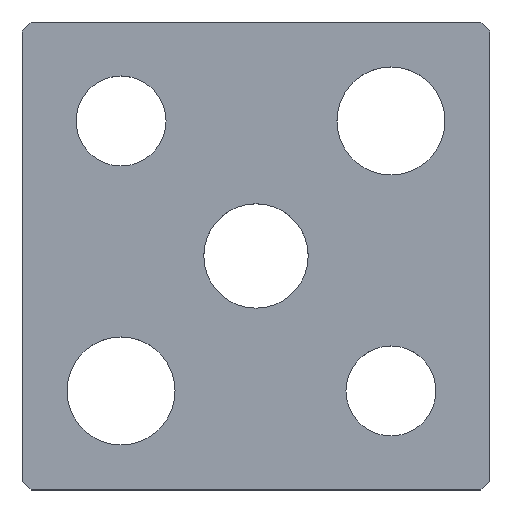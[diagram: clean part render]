
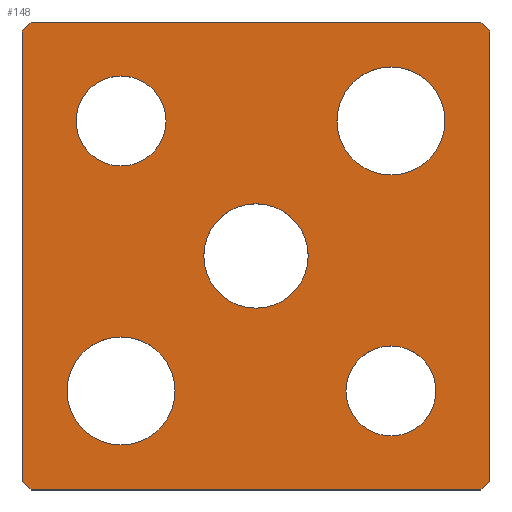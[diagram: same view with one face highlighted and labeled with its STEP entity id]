
A CAD part, top view. The second image highlights one B-rep face of the part: STEP entity #148.
In plain terms, the highlighted planar face has unit normal (0, 0, 1).
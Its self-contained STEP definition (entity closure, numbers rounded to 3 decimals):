
#117=CIRCLE('',#503,5.8);
#118=CIRCLE('',#504,5.8);
#119=CIRCLE('',#505,5.);
#120=CIRCLE('',#506,5.);
#121=CIRCLE('',#507,6.);
#122=CIRCLE('',#508,6.);
#123=CIRCLE('',#509,6.);
#124=CIRCLE('',#510,6.);
#125=CIRCLE('',#511,5.);
#126=CIRCLE('',#512,5.);
#133=FACE_BOUND('',#201,.T.);
#134=FACE_BOUND('',#202,.T.);
#135=FACE_BOUND('',#203,.T.);
#136=FACE_BOUND('',#204,.T.);
#137=FACE_BOUND('',#205,.T.);
#138=FACE_BOUND('',#206,.T.);
#148=ADVANCED_FACE('',(#133,#134,#135,#136,#137,#138),#168,.T.);
#168=PLANE('',#513);
#201=EDGE_LOOP('',(#267,#268,#269,#270,#271,#272,#273,#274));
#202=EDGE_LOOP('',(#275,#276));
#203=EDGE_LOOP('',(#277,#278));
#204=EDGE_LOOP('',(#279,#280));
#205=EDGE_LOOP('',(#281,#282));
#206=EDGE_LOOP('',(#283,#284));
#267=ORIENTED_EDGE('',*,*,#362,.T.);
#268=ORIENTED_EDGE('',*,*,#366,.T.);
#269=ORIENTED_EDGE('',*,*,#369,.T.);
#270=ORIENTED_EDGE('',*,*,#372,.T.);
#271=ORIENTED_EDGE('',*,*,#375,.T.);
#272=ORIENTED_EDGE('',*,*,#378,.T.);
#273=ORIENTED_EDGE('',*,*,#381,.T.);
#274=ORIENTED_EDGE('',*,*,#384,.T.);
#275=ORIENTED_EDGE('',*,*,#395,.T.);
#276=ORIENTED_EDGE('',*,*,#396,.T.);
#277=ORIENTED_EDGE('',*,*,#397,.T.);
#278=ORIENTED_EDGE('',*,*,#398,.T.);
#279=ORIENTED_EDGE('',*,*,#399,.T.);
#280=ORIENTED_EDGE('',*,*,#400,.T.);
#281=ORIENTED_EDGE('',*,*,#401,.T.);
#282=ORIENTED_EDGE('',*,*,#402,.T.);
#283=ORIENTED_EDGE('',*,*,#403,.T.);
#284=ORIENTED_EDGE('',*,*,#404,.T.);
#326=VERTEX_POINT('',#643);
#327=VERTEX_POINT('',#645);
#330=VERTEX_POINT('',#652);
#332=VERTEX_POINT('',#658);
#334=VERTEX_POINT('',#664);
#336=VERTEX_POINT('',#670);
#338=VERTEX_POINT('',#676);
#340=VERTEX_POINT('',#682);
#351=VERTEX_POINT('',#711);
#352=VERTEX_POINT('',#712);
#353=VERTEX_POINT('',#715);
#354=VERTEX_POINT('',#716);
#355=VERTEX_POINT('',#719);
#356=VERTEX_POINT('',#720);
#357=VERTEX_POINT('',#723);
#358=VERTEX_POINT('',#724);
#359=VERTEX_POINT('',#727);
#360=VERTEX_POINT('',#728);
#362=EDGE_CURVE('',#327,#326,#416,.T.);
#366=EDGE_CURVE('',#326,#330,#420,.T.);
#369=EDGE_CURVE('',#330,#332,#423,.T.);
#372=EDGE_CURVE('',#332,#334,#426,.T.);
#375=EDGE_CURVE('',#334,#336,#429,.T.);
#378=EDGE_CURVE('',#336,#338,#432,.T.);
#381=EDGE_CURVE('',#338,#340,#435,.T.);
#384=EDGE_CURVE('',#340,#327,#438,.T.);
#395=EDGE_CURVE('',#351,#352,#117,.T.);
#396=EDGE_CURVE('',#352,#351,#118,.T.);
#397=EDGE_CURVE('',#353,#354,#119,.T.);
#398=EDGE_CURVE('',#354,#353,#120,.T.);
#399=EDGE_CURVE('',#355,#356,#121,.T.);
#400=EDGE_CURVE('',#356,#355,#122,.T.);
#401=EDGE_CURVE('',#357,#358,#123,.T.);
#402=EDGE_CURVE('',#358,#357,#124,.T.);
#403=EDGE_CURVE('',#359,#360,#125,.T.);
#404=EDGE_CURVE('',#360,#359,#126,.T.);
#416=LINE('',#644,#450);
#420=LINE('',#653,#454);
#423=LINE('',#659,#457);
#426=LINE('',#665,#460);
#429=LINE('',#671,#463);
#432=LINE('',#677,#466);
#435=LINE('',#683,#469);
#438=LINE('',#687,#472);
#450=VECTOR('',#527,1.);
#454=VECTOR('',#533,1.);
#457=VECTOR('',#538,1.);
#460=VECTOR('',#543,1.);
#463=VECTOR('',#548,1.);
#466=VECTOR('',#553,1.);
#469=VECTOR('',#558,1.);
#472=VECTOR('',#563,1.);
#503=AXIS2_PLACEMENT_3D('',#710,#588,#589);
#504=AXIS2_PLACEMENT_3D('',#713,#590,#591);
#505=AXIS2_PLACEMENT_3D('',#714,#592,#593);
#506=AXIS2_PLACEMENT_3D('',#717,#594,#595);
#507=AXIS2_PLACEMENT_3D('',#718,#596,#597);
#508=AXIS2_PLACEMENT_3D('',#721,#598,#599);
#509=AXIS2_PLACEMENT_3D('',#722,#600,#601);
#510=AXIS2_PLACEMENT_3D('',#725,#602,#603);
#511=AXIS2_PLACEMENT_3D('',#726,#604,#605);
#512=AXIS2_PLACEMENT_3D('',#729,#606,#607);
#513=AXIS2_PLACEMENT_3D('',#730,#608,#609);
#527=DIRECTION('',(0.707,-0.707,0.));
#533=DIRECTION('',(1.,0.,0.));
#538=DIRECTION('',(0.707,0.707,0.));
#543=DIRECTION('',(0.,1.,0.));
#548=DIRECTION('',(-0.707,0.707,0.));
#553=DIRECTION('',(-1.,0.,0.));
#558=DIRECTION('',(-0.707,-0.707,0.));
#563=DIRECTION('',(0.,-1.,0.));
#588=DIRECTION('',(0.,0.,-1.));
#589=DIRECTION('',(-1.,0.,0.));
#590=DIRECTION('',(0.,0.,-1.));
#591=DIRECTION('',(1.,0.,0.));
#592=DIRECTION('',(0.,0.,-1.));
#593=DIRECTION('',(-1.,0.,0.));
#594=DIRECTION('',(0.,0.,-1.));
#595=DIRECTION('',(1.,0.,0.));
#596=DIRECTION('',(0.,0.,-1.));
#597=DIRECTION('',(-1.,0.,0.));
#598=DIRECTION('',(0.,0.,-1.));
#599=DIRECTION('',(1.,0.,0.));
#600=DIRECTION('',(0.,0.,-1.));
#601=DIRECTION('',(-1.,0.,0.));
#602=DIRECTION('',(0.,0.,-1.));
#603=DIRECTION('',(1.,0.,0.));
#604=DIRECTION('',(0.,0.,-1.));
#605=DIRECTION('',(-1.,0.,0.));
#606=DIRECTION('',(0.,0.,-1.));
#607=DIRECTION('',(1.,0.,0.));
#608=DIRECTION('',(0.,0.,1.));
#609=DIRECTION('',(0.,-1.,0.));
#643=CARTESIAN_POINT('',(-25.,-26.,5.));
#644=CARTESIAN_POINT('',(-26.,-25.,5.));
#645=CARTESIAN_POINT('',(-26.,-25.,5.));
#652=CARTESIAN_POINT('',(25.,-26.,5.));
#653=CARTESIAN_POINT('',(-25.,-26.,5.));
#658=CARTESIAN_POINT('',(26.,-25.,5.));
#659=CARTESIAN_POINT('',(26.,-25.,5.));
#664=CARTESIAN_POINT('',(26.,25.,5.));
#665=CARTESIAN_POINT('',(26.,25.,5.));
#670=CARTESIAN_POINT('',(25.,26.,5.));
#671=CARTESIAN_POINT('',(25.,26.,5.));
#676=CARTESIAN_POINT('',(-25.,26.,5.));
#677=CARTESIAN_POINT('',(-25.,26.,5.));
#682=CARTESIAN_POINT('',(-26.,25.,5.));
#683=CARTESIAN_POINT('',(-26.,25.,5.));
#687=CARTESIAN_POINT('',(-26.,25.,5.));
#710=CARTESIAN_POINT('',(0.,0.,5.));
#711=CARTESIAN_POINT('',(0.,5.8,5.));
#712=CARTESIAN_POINT('',(0.,-5.8,5.));
#713=CARTESIAN_POINT('',(0.,0.,5.));
#714=CARTESIAN_POINT('',(-15.,15.,5.));
#715=CARTESIAN_POINT('',(-15.,20.,5.));
#716=CARTESIAN_POINT('',(-15.,10.,5.));
#717=CARTESIAN_POINT('',(-15.,15.,5.));
#718=CARTESIAN_POINT('',(15.,15.,5.));
#719=CARTESIAN_POINT('',(15.,21.,5.));
#720=CARTESIAN_POINT('',(15.,9.,5.));
#721=CARTESIAN_POINT('',(15.,15.,5.));
#722=CARTESIAN_POINT('',(-15.,-15.,5.));
#723=CARTESIAN_POINT('',(-15.,-9.,5.));
#724=CARTESIAN_POINT('',(-15.,-21.,5.));
#725=CARTESIAN_POINT('',(-15.,-15.,5.));
#726=CARTESIAN_POINT('',(15.,-15.,5.));
#727=CARTESIAN_POINT('',(15.,-10.,5.));
#728=CARTESIAN_POINT('',(15.,-20.,5.));
#729=CARTESIAN_POINT('',(15.,-15.,5.));
#730=CARTESIAN_POINT('',(-26.,-25.,5.));
